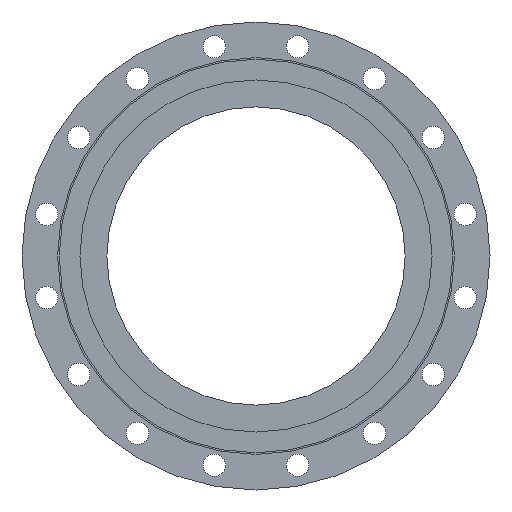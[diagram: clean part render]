
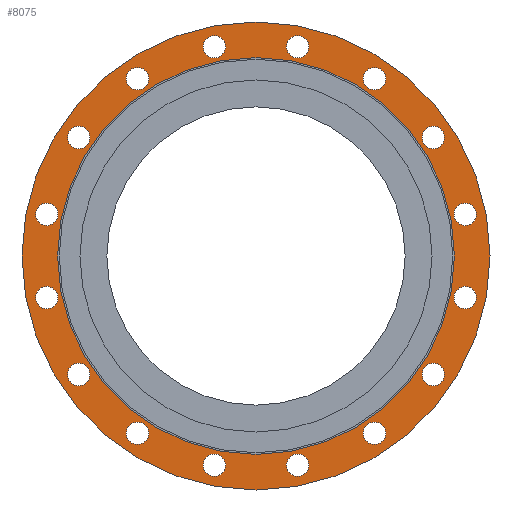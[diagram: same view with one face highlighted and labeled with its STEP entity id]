
A CAD part, left-side view. The second image highlights one B-rep face of the part: STEP entity #8075.
In plain terms, the highlighted planar face has unit normal (-1, 0, 0).
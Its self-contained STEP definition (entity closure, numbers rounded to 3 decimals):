
#8075=ADVANCED_FACE('',(#14560,#14562,#14564,#14566,#14568,#14570,#14572,#14574,
#14576,#14578,#14580,#14582,#14584,#14586,#14588,#14590,#14592,#14594),#14596,.T.);
#14560=FACE_BOUND('',#14561,.T.);
#14561=EDGE_LOOP('',(#19794,#19795));
#14562=FACE_BOUND('',#14563,.T.);
#14563=EDGE_LOOP('',(#19796));
#14564=FACE_BOUND('',#14565,.T.);
#14565=EDGE_LOOP('',(#19797));
#14566=FACE_BOUND('',#14567,.T.);
#14567=EDGE_LOOP('',(#19798));
#14568=FACE_BOUND('',#14569,.T.);
#14569=EDGE_LOOP('',(#19799));
#14570=FACE_BOUND('',#14571,.T.);
#14571=EDGE_LOOP('',(#19800));
#14572=FACE_BOUND('',#14573,.T.);
#14573=EDGE_LOOP('',(#19801));
#14574=FACE_BOUND('',#14575,.T.);
#14575=EDGE_LOOP('',(#19802));
#14576=FACE_BOUND('',#14577,.T.);
#14577=EDGE_LOOP('',(#19803));
#14578=FACE_BOUND('',#14579,.T.);
#14579=EDGE_LOOP('',(#19804));
#14580=FACE_BOUND('',#14581,.T.);
#14581=EDGE_LOOP('',(#19805));
#14582=FACE_BOUND('',#14583,.T.);
#14583=EDGE_LOOP('',(#19806));
#14584=FACE_BOUND('',#14585,.T.);
#14585=EDGE_LOOP('',(#19807));
#14586=FACE_BOUND('',#14587,.T.);
#14587=EDGE_LOOP('',(#19808));
#14588=FACE_BOUND('',#14589,.T.);
#14589=EDGE_LOOP('',(#19809));
#14590=FACE_BOUND('',#14591,.T.);
#14591=EDGE_LOOP('',(#19810));
#14592=FACE_BOUND('',#14593,.T.);
#14593=EDGE_LOOP('',(#19811,#19812));
#14594=FACE_BOUND('',#14595,.T.);
#14595=EDGE_LOOP('',(#19813));
#14596=PLANE('',#14597);
#14597=AXIS2_PLACEMENT_3D('',#14598,#14599,#14600);
#14598=CARTESIAN_POINT('',(24716.563,36078.576,282.5));
#14599=DIRECTION('',(-1.,0.,0.));
#14600=DIRECTION('',(0.,-1.,0.));
#19794=ORIENTED_EDGE('',*,*,#22423,.F.);
#19795=ORIENTED_EDGE('',*,*,#22424,.F.);
#19796=ORIENTED_EDGE('',*,*,#22332,.T.);
#19797=ORIENTED_EDGE('',*,*,#22334,.T.);
#19798=ORIENTED_EDGE('',*,*,#22336,.T.);
#19799=ORIENTED_EDGE('',*,*,#22338,.T.);
#19800=ORIENTED_EDGE('',*,*,#22340,.T.);
#19801=ORIENTED_EDGE('',*,*,#22342,.T.);
#19802=ORIENTED_EDGE('',*,*,#22344,.T.);
#19803=ORIENTED_EDGE('',*,*,#22346,.T.);
#19804=ORIENTED_EDGE('',*,*,#22348,.T.);
#19805=ORIENTED_EDGE('',*,*,#22350,.T.);
#19806=ORIENTED_EDGE('',*,*,#22352,.T.);
#19807=ORIENTED_EDGE('',*,*,#22354,.T.);
#19808=ORIENTED_EDGE('',*,*,#22356,.T.);
#19809=ORIENTED_EDGE('',*,*,#22358,.T.);
#19810=ORIENTED_EDGE('',*,*,#22360,.T.);
#19811=ORIENTED_EDGE('',*,*,#22422,.T.);
#19812=ORIENTED_EDGE('',*,*,#22421,.T.);
#19813=ORIENTED_EDGE('',*,*,#22330,.T.);
#22330=EDGE_CURVE('',#26544,#26544,#26545,.T.);
#22332=EDGE_CURVE('',#26548,#26548,#26549,.T.);
#22334=EDGE_CURVE('',#26552,#26552,#26553,.T.);
#22336=EDGE_CURVE('',#26556,#26556,#26557,.T.);
#22338=EDGE_CURVE('',#26560,#26560,#26561,.T.);
#22340=EDGE_CURVE('',#26564,#26564,#26565,.T.);
#22342=EDGE_CURVE('',#26568,#26568,#26569,.T.);
#22344=EDGE_CURVE('',#26572,#26572,#26573,.T.);
#22346=EDGE_CURVE('',#26576,#26576,#26577,.T.);
#22348=EDGE_CURVE('',#26580,#26580,#26581,.T.);
#22350=EDGE_CURVE('',#26584,#26584,#26585,.T.);
#22352=EDGE_CURVE('',#26588,#26588,#26589,.T.);
#22354=EDGE_CURVE('',#26592,#26592,#26593,.T.);
#22356=EDGE_CURVE('',#26596,#26596,#26597,.T.);
#22358=EDGE_CURVE('',#26600,#26600,#26601,.T.);
#22360=EDGE_CURVE('',#26604,#26604,#26605,.T.);
#22421=EDGE_CURVE('',#26726,#26727,#26728,.T.);
#22422=EDGE_CURVE('',#26727,#26726,#26729,.T.);
#22423=EDGE_CURVE('',#26730,#26731,#26732,.T.);
#22424=EDGE_CURVE('',#26731,#26730,#26733,.T.);
#26544=VERTEX_POINT('',#35802);
#26545=CIRCLE('',#35803,13.5);
#26548=VERTEX_POINT('',#35812);
#26549=CIRCLE('',#35813,13.5);
#26552=VERTEX_POINT('',#35822);
#26553=CIRCLE('',#35823,13.5);
#26556=VERTEX_POINT('',#35832);
#26557=CIRCLE('',#35833,13.5);
#26560=VERTEX_POINT('',#35842);
#26561=CIRCLE('',#35843,13.5);
#26564=VERTEX_POINT('',#35852);
#26565=CIRCLE('',#35853,13.5);
#26568=VERTEX_POINT('',#35862);
#26569=CIRCLE('',#35863,13.5);
#26572=VERTEX_POINT('',#35872);
#26573=CIRCLE('',#35873,13.5);
#26576=VERTEX_POINT('',#35882);
#26577=CIRCLE('',#35883,13.5);
#26580=VERTEX_POINT('',#35892);
#26581=CIRCLE('',#35893,13.5);
#26584=VERTEX_POINT('',#35902);
#26585=CIRCLE('',#35903,13.5);
#26588=VERTEX_POINT('',#35912);
#26589=CIRCLE('',#35913,13.5);
#26592=VERTEX_POINT('',#35922);
#26593=CIRCLE('',#35923,13.5);
#26596=VERTEX_POINT('',#35932);
#26597=CIRCLE('',#35933,13.5);
#26600=VERTEX_POINT('',#35942);
#26601=CIRCLE('',#35943,13.5);
#26604=VERTEX_POINT('',#35952);
#26605=CIRCLE('',#35953,13.5);
#26726=VERTEX_POINT('',#36257);
#26727=VERTEX_POINT('',#36258);
#26728=CIRCLE('',#36259,239.5);
#26729=CIRCLE('',#36263,239.5);
#26730=VERTEX_POINT('',#36267);
#26731=VERTEX_POINT('',#36268);
#26732=CIRCLE('',#36269,282.5);
#26733=CIRCLE('',#36273,282.5);
#35802=CARTESIAN_POINT('',(24716.563,36279.18,-143.059));
#35803=AXIS2_PLACEMENT_3D('',#35804,#35805,#35806);
#35804=CARTESIAN_POINT('',(24716.563,36292.68,-143.059));
#35805=DIRECTION('',(1.,0.,0.));
#35806=DIRECTION('',(0.,-1.,0.));
#35812=CARTESIAN_POINT('',(24716.563,36317.628,50.236));
#35813=AXIS2_PLACEMENT_3D('',#35814,#35815,#35816);
#35814=CARTESIAN_POINT('',(24716.563,36331.128,50.236));
#35815=DIRECTION('',(1.,0.,0.));
#35816=DIRECTION('',(0.,-1.,0.));
#35822=CARTESIAN_POINT('',(24716.563,36208.136,214.103));
#35823=AXIS2_PLACEMENT_3D('',#35824,#35825,#35826);
#35824=CARTESIAN_POINT('',(24716.563,36221.636,214.103));
#35825=DIRECTION('',(1.,0.,0.));
#35826=DIRECTION('',(0.,-1.,0.));
#35832=CARTESIAN_POINT('',(24716.563,36014.84,252.552));
#35833=AXIS2_PLACEMENT_3D('',#35834,#35835,#35836);
#35834=CARTESIAN_POINT('',(24716.563,36028.34,252.552));
#35835=DIRECTION('',(1.,0.,0.));
#35836=DIRECTION('',(0.,-1.,0.));
#35842=CARTESIAN_POINT('',(24716.563,35850.973,143.059));
#35843=AXIS2_PLACEMENT_3D('',#35844,#35845,#35846);
#35844=CARTESIAN_POINT('',(24716.563,35864.473,143.059));
#35845=DIRECTION('',(1.,0.,0.));
#35846=DIRECTION('',(0.,-1.,0.));
#35852=CARTESIAN_POINT('',(24716.563,35812.524,-50.236));
#35853=AXIS2_PLACEMENT_3D('',#35854,#35855,#35856);
#35854=CARTESIAN_POINT('',(24716.563,35826.024,-50.236));
#35855=DIRECTION('',(1.,0.,0.));
#35856=DIRECTION('',(0.,-1.,0.));
#35862=CARTESIAN_POINT('',(24716.563,35922.017,-214.103));
#35863=AXIS2_PLACEMENT_3D('',#35864,#35865,#35866);
#35864=CARTESIAN_POINT('',(24716.563,35935.517,-214.103));
#35865=DIRECTION('',(1.,0.,0.));
#35866=DIRECTION('',(0.,-1.,0.));
#35872=CARTESIAN_POINT('',(24716.563,36115.312,-252.552));
#35873=AXIS2_PLACEMENT_3D('',#35874,#35875,#35876);
#35874=CARTESIAN_POINT('',(24716.563,36128.812,-252.552));
#35875=DIRECTION('',(1.,0.,0.));
#35876=DIRECTION('',(0.,-1.,0.));
#35882=CARTESIAN_POINT('',(24716.563,36014.84,-252.552));
#35883=AXIS2_PLACEMENT_3D('',#35884,#35885,#35886);
#35884=CARTESIAN_POINT('',(24716.563,36028.34,-252.552));
#35885=DIRECTION('',(1.,0.,0.));
#35886=DIRECTION('',(0.,-1.,0.));
#35892=CARTESIAN_POINT('',(24716.563,35850.973,-143.059));
#35893=AXIS2_PLACEMENT_3D('',#35894,#35895,#35896);
#35894=CARTESIAN_POINT('',(24716.563,35864.473,-143.059));
#35895=DIRECTION('',(1.,0.,0.));
#35896=DIRECTION('',(0.,-1.,0.));
#35902=CARTESIAN_POINT('',(24716.563,35812.524,50.236));
#35903=AXIS2_PLACEMENT_3D('',#35904,#35905,#35906);
#35904=CARTESIAN_POINT('',(24716.563,35826.024,50.236));
#35905=DIRECTION('',(1.,0.,0.));
#35906=DIRECTION('',(0.,-1.,0.));
#35912=CARTESIAN_POINT('',(24716.563,35922.017,214.103));
#35913=AXIS2_PLACEMENT_3D('',#35914,#35915,#35916);
#35914=CARTESIAN_POINT('',(24716.563,35935.517,214.103));
#35915=DIRECTION('',(1.,0.,0.));
#35916=DIRECTION('',(0.,-1.,0.));
#35922=CARTESIAN_POINT('',(24716.563,36115.312,252.552));
#35923=AXIS2_PLACEMENT_3D('',#35924,#35925,#35926);
#35924=CARTESIAN_POINT('',(24716.563,36128.812,252.552));
#35925=DIRECTION('',(1.,0.,0.));
#35926=DIRECTION('',(0.,-1.,0.));
#35932=CARTESIAN_POINT('',(24716.563,36279.18,143.059));
#35933=AXIS2_PLACEMENT_3D('',#35934,#35935,#35936);
#35934=CARTESIAN_POINT('',(24716.563,36292.68,143.059));
#35935=DIRECTION('',(1.,0.,0.));
#35936=DIRECTION('',(0.,-1.,0.));
#35942=CARTESIAN_POINT('',(24716.563,36317.628,-50.236));
#35943=AXIS2_PLACEMENT_3D('',#35944,#35945,#35946);
#35944=CARTESIAN_POINT('',(24716.563,36331.128,-50.236));
#35945=DIRECTION('',(1.,0.,0.));
#35946=DIRECTION('',(0.,-1.,0.));
#35952=CARTESIAN_POINT('',(24716.563,36208.136,-214.103));
#35953=AXIS2_PLACEMENT_3D('',#35954,#35955,#35956);
#35954=CARTESIAN_POINT('',(24716.563,36221.636,-214.103));
#35955=DIRECTION('',(1.,0.,0.));
#35956=DIRECTION('',(0.,-1.,0.));
#36257=CARTESIAN_POINT('',(24716.563,36078.576,-239.5));
#36258=CARTESIAN_POINT('',(24716.563,36078.576,239.5));
#36259=AXIS2_PLACEMENT_3D('',#36260,#36261,#36262);
#36260=CARTESIAN_POINT('',(24716.563,36078.576,0.));
#36261=DIRECTION('',(1.,0.,0.));
#36262=DIRECTION('',(0.,0.,-1.));
#36263=AXIS2_PLACEMENT_3D('',#36264,#36265,#36266);
#36264=CARTESIAN_POINT('',(24716.563,36078.576,0.));
#36265=DIRECTION('',(1.,0.,0.));
#36266=DIRECTION('',(0.,0.,1.));
#36267=CARTESIAN_POINT('',(24716.563,36078.576,-282.5));
#36268=CARTESIAN_POINT('',(24716.563,36078.576,282.5));
#36269=AXIS2_PLACEMENT_3D('',#36270,#36271,#36272);
#36270=CARTESIAN_POINT('',(24716.563,36078.576,0.));
#36271=DIRECTION('',(1.,0.,0.));
#36272=DIRECTION('',(0.,0.,-1.));
#36273=AXIS2_PLACEMENT_3D('',#36274,#36275,#36276);
#36274=CARTESIAN_POINT('',(24716.563,36078.576,0.));
#36275=DIRECTION('',(1.,0.,0.));
#36276=DIRECTION('',(0.,0.,1.));
